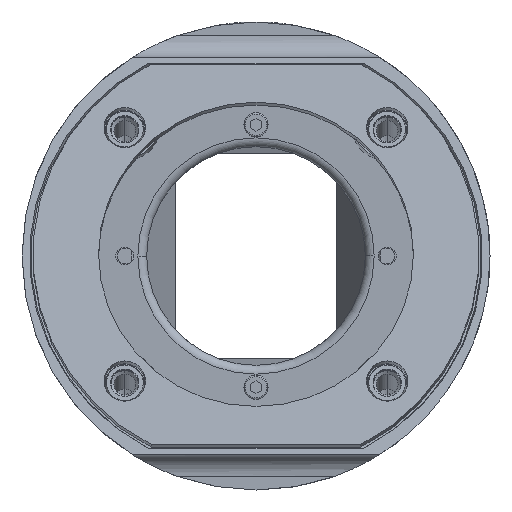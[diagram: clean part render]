
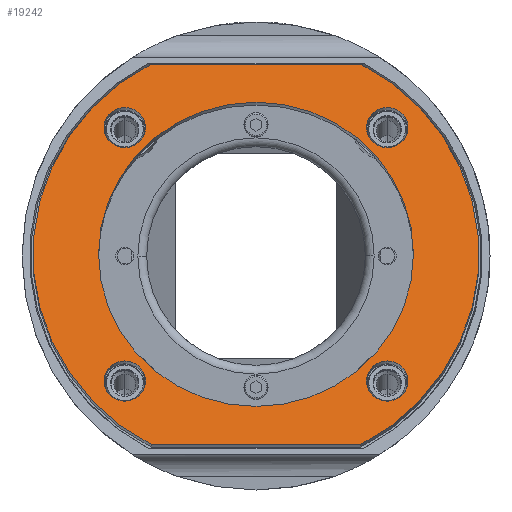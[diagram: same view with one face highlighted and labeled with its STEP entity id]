
A CAD part, front view. The second image highlights one B-rep face of the part: STEP entity #19242.
In plain terms, the highlighted planar face has unit normal (0, -0.966, 0.259).
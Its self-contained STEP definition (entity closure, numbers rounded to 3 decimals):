
#4282=CARTESIAN_POINT('',(0.,-62.114,0.388));
#4283=DIRECTION('',(0.,0.966,-0.259));
#4284=DIRECTION('',(0.471,0.228,0.852));
#4285=AXIS2_PLACEMENT_3D('',#4282,#4283,#4284);
#4287=CARTESIAN_POINT('',(0.,-62.114,0.388));
#4288=DIRECTION('',(0.,0.966,-0.259));
#4289=DIRECTION('',(-0.471,-0.228,-0.852));
#4290=AXIS2_PLACEMENT_3D('',#4287,#4288,#4289);
#4292=CARTESIAN_POINT('',(0.,-62.114,0.388));
#4293=DIRECTION('',(0.,-0.966,0.259));
#4294=DIRECTION('',(1.,0.,0.));
#4295=AXIS2_PLACEMENT_3D('',#4292,#4293,#4294);
#4297=CARTESIAN_POINT('',(0.,-62.114,0.388));
#4298=DIRECTION('',(0.,-0.966,0.259));
#4299=DIRECTION('',(-1.,0.,0.));
#4300=AXIS2_PLACEMENT_3D('',#4297,#4298,#4299);
#4302=CARTESIAN_POINT('',(30.,-54.349,29.366));
#4303=DIRECTION('',(0.,-0.966,0.259));
#4304=DIRECTION('',(1.,0.,0.));
#4305=AXIS2_PLACEMENT_3D('',#4302,#4303,#4304);
#4307=CARTESIAN_POINT('',(30.,-54.349,29.366));
#4308=DIRECTION('',(0.,-0.966,0.259));
#4309=DIRECTION('',(-1.,0.,0.));
#4310=AXIS2_PLACEMENT_3D('',#4307,#4308,#4309);
#4312=CARTESIAN_POINT('',(-30.,-54.349,29.366));
#4313=DIRECTION('',(0.,-0.966,0.259));
#4314=DIRECTION('',(1.,0.,0.));
#4315=AXIS2_PLACEMENT_3D('',#4312,#4313,#4314);
#4317=CARTESIAN_POINT('',(-30.,-54.349,29.366));
#4318=DIRECTION('',(0.,-0.966,0.259));
#4319=DIRECTION('',(-1.,0.,0.));
#4320=AXIS2_PLACEMENT_3D('',#4317,#4318,#4319);
#4322=CARTESIAN_POINT('',(-30.,-69.878,-28.59));
#4323=DIRECTION('',(0.,-0.966,0.259));
#4324=DIRECTION('',(1.,0.,0.));
#4325=AXIS2_PLACEMENT_3D('',#4322,#4323,#4324);
#4327=CARTESIAN_POINT('',(-30.,-69.878,-28.59));
#4328=DIRECTION('',(0.,-0.966,0.259));
#4329=DIRECTION('',(-1.,0.,0.));
#4330=AXIS2_PLACEMENT_3D('',#4327,#4328,#4329);
#4332=CARTESIAN_POINT('',(30.,-69.878,-28.59));
#4333=DIRECTION('',(0.,-0.966,0.259));
#4334=DIRECTION('',(1.,0.,0.));
#4335=AXIS2_PLACEMENT_3D('',#4332,#4333,#4334);
#4337=CARTESIAN_POINT('',(30.,-69.878,-28.59));
#4338=DIRECTION('',(0.,-0.966,0.259));
#4339=DIRECTION('',(-1.,0.,0.));
#4340=AXIS2_PLACEMENT_3D('',#4337,#4338,#4339);
#4342=DIRECTION('',(-1.,0.,0.));
#4343=VECTOR('',#4342,48.);
#4344=CARTESIAN_POINT('',(24.,-50.467,43.855));
#4345=LINE('',#4344,#4343);
#4354=DIRECTION('',(1.,0.,0.));
#4355=VECTOR('',#4354,48.);
#4356=CARTESIAN_POINT('',(-24.,-73.76,-43.078));
#4357=LINE('',#4356,#4355);
#10133=CARTESIAN_POINT('',(24.,-50.467,
43.855));
#10134=CARTESIAN_POINT('',(-24.,-50.467,43.855));
#10135=VERTEX_POINT('',#10133);
#10136=VERTEX_POINT('',#10134);
#10137=CARTESIAN_POINT('',(-24.,-73.76,-43.078));
#10138=VERTEX_POINT('',#10137);
#10139=CARTESIAN_POINT('',(24.,-73.76,-43.078));
#10140=VERTEX_POINT('',#10139);
#10141=CARTESIAN_POINT('',(36.,-62.114,0.388));
#10142=CARTESIAN_POINT('',(-36.,-62.114,0.388));
#10143=VERTEX_POINT('',#10141);
#10144=VERTEX_POINT('',#10142);
#10145=CARTESIAN_POINT('',(34.75,-54.349,29.366));
#10146=CARTESIAN_POINT('',(25.25,-54.349,29.366));
#10147=VERTEX_POINT('',#10145);
#10148=VERTEX_POINT('',#10146);
#10149=CARTESIAN_POINT('',(-25.25,-54.349,29.366));
#10150=CARTESIAN_POINT('',(-34.75,-54.349,29.366));
#10151=VERTEX_POINT('',#10149);
#10152=VERTEX_POINT('',#10150);
#10153=CARTESIAN_POINT('',(-25.25,-69.878,-28.59));
#10154=CARTESIAN_POINT('',(-34.75,-69.878,-28.59));
#10155=VERTEX_POINT('',#10153);
#10156=VERTEX_POINT('',#10154);
#10157=CARTESIAN_POINT('',(34.75,-69.878,-28.59));
#10158=CARTESIAN_POINT('',(25.25,-69.878,-28.59));
#10159=VERTEX_POINT('',#10157);
#10160=VERTEX_POINT('',#10158);
#19199=CARTESIAN_POINT('',(0.,-62.114,0.388));
#19200=DIRECTION('',(0.,0.966,-0.259));
#19201=DIRECTION('',(-1.,0.,0.));
#19202=AXIS2_PLACEMENT_3D('',#19199,#19200,#19201);
#19203=PLANE('',#19202);
#19205=ORIENTED_EDGE('',*,*,#19204,.F.);
#19207=ORIENTED_EDGE('',*,*,#19206,.T.);
#19209=ORIENTED_EDGE('',*,*,#19208,.F.);
#19211=ORIENTED_EDGE('',*,*,#19210,.T.);
#19212=EDGE_LOOP('',(#19205,#19207,#19209,#19211));
#19213=FACE_OUTER_BOUND('',#19212,.F.);
#19214=ORIENTED_EDGE('',*,*,#19158,.T.);
#19215=ORIENTED_EDGE('',*,*,#19183,.T.);
#19216=EDGE_LOOP('',(#19214,#19215));
#19217=FACE_BOUND('',#19216,.F.);
#19219=ORIENTED_EDGE('',*,*,#19218,.T.);
#19221=ORIENTED_EDGE('',*,*,#19220,.T.);
#19222=EDGE_LOOP('',(#19219,#19221));
#19223=FACE_BOUND('',#19222,.F.);
#19225=ORIENTED_EDGE('',*,*,#19224,.T.);
#19227=ORIENTED_EDGE('',*,*,#19226,.T.);
#19228=EDGE_LOOP('',(#19225,#19227));
#19229=FACE_BOUND('',#19228,.F.);
#19231=ORIENTED_EDGE('',*,*,#19230,.T.);
#19233=ORIENTED_EDGE('',*,*,#19232,.T.);
#19234=EDGE_LOOP('',(#19231,#19233));
#19235=FACE_BOUND('',#19234,.F.);
#19237=ORIENTED_EDGE('',*,*,#19236,.T.);
#19239=ORIENTED_EDGE('',*,*,#19238,.T.);
#19240=EDGE_LOOP('',(#19237,#19239));
#19241=FACE_BOUND('',#19240,.F.);
#4286=CIRCLE('',#4285,51.);
#4291=CIRCLE('',#4290,51.);
#4296=CIRCLE('',#4295,36.);
#4301=CIRCLE('',#4300,36.);
#4306=CIRCLE('',#4305,4.75);
#4311=CIRCLE('',#4310,4.75);
#4316=CIRCLE('',#4315,4.75);
#4321=CIRCLE('',#4320,4.75);
#4326=CIRCLE('',#4325,4.75);
#4331=CIRCLE('',#4330,4.75);
#4336=CIRCLE('',#4335,4.75);
#4341=CIRCLE('',#4340,4.75);
#19158=EDGE_CURVE('',#10143,#10144,#4296,.T.);
#19183=EDGE_CURVE('',#10144,#10143,#4301,.T.);
#19204=EDGE_CURVE('',#10135,#10136,#4345,.T.);
#19206=EDGE_CURVE('',#10135,#10140,#4286,.T.);
#19208=EDGE_CURVE('',#10138,#10140,#4357,.T.);
#19210=EDGE_CURVE('',#10138,#10136,#4291,.T.);
#19218=EDGE_CURVE('',#10147,#10148,#4306,.T.);
#19220=EDGE_CURVE('',#10148,#10147,#4311,.T.);
#19224=EDGE_CURVE('',#10151,#10152,#4316,.T.);
#19226=EDGE_CURVE('',#10152,#10151,#4321,.T.);
#19230=EDGE_CURVE('',#10155,#10156,#4326,.T.);
#19232=EDGE_CURVE('',#10156,#10155,#4331,.T.);
#19236=EDGE_CURVE('',#10159,#10160,#4336,.T.);
#19238=EDGE_CURVE('',#10160,#10159,#4341,.T.);
#19242=ADVANCED_FACE('',(#19213,#19217,#19223,#19229,#19235,#19241),#19203,.F.);
